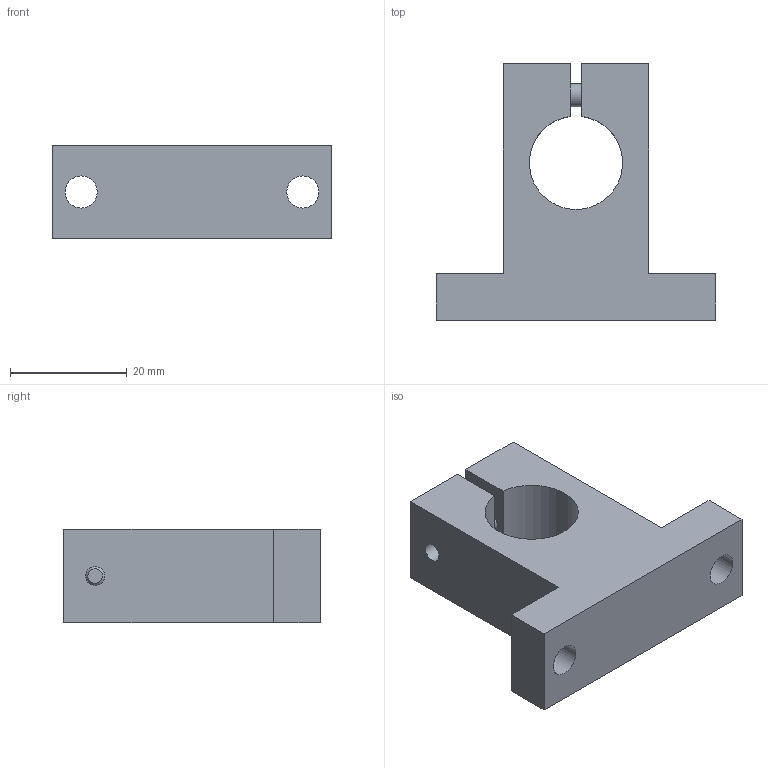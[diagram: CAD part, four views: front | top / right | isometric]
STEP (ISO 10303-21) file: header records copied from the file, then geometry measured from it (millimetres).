
FILE_DESCRIPTION(('STEP AP214'), '1');
FILE_NAME('SH16 - Äåðæàòåëü âàëà', '', ('UNSPECIFIED'), ('UNSPECIFIED'), 'ASCON STEP Converter 1.3', 'ASCON Math Kernel', '');
FILE_SCHEMA(('AUTOMOTIVE_DESIGN { 1 0 10303 214 3 1 1}'));
Length unit declared in the file: millimetre
Products named in the file (3): SH16
Assembly tree (2 placements, depth 2):
  SH16
    SH16
    (unnamed)
Bounding box: 48 x 44 x 16 mm (x, y, z)
Volume: 16538 mm3; surface area: 6950.4 mm2
Topology: 2 solids, 2 shells, 42 faces, 98 edges, 62 vertices
Faces by surface type: plane 29, cylinder 9, cone 4
Full cylindrical faces by diameter (mm): 3 x1, 3.242 x1, 4 x1, 4.5 x1, 5.5 x2, 7 x1, 8 x1
Entity records: 1786 total; most frequent: CARTESIAN_POINT 365, DIRECTION 196, ORIENTED_EDGE 170, EDGE_CURVE 85, AXIS2_PLACEMENT_3D 72, EDGE_LOOP 64, VERTEX_POINT 61, LINE 52
